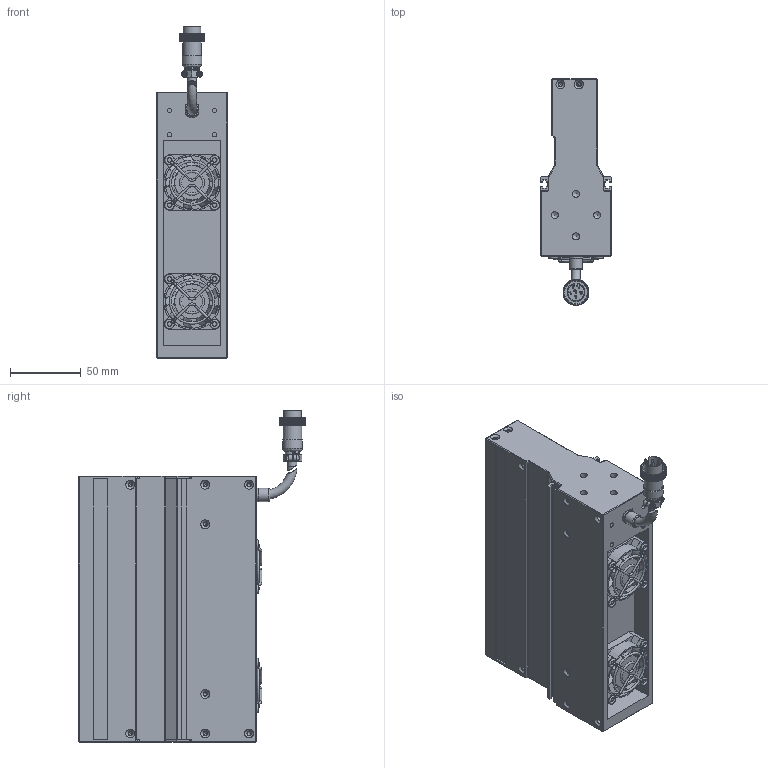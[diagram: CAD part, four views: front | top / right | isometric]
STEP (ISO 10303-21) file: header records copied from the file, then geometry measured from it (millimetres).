
FILE_DESCRIPTION (( 'STEP AP203' ), '1' );
FILE_NAME ('OPT-LSSC188-W-V3.1U尨砩芞.STEP', '2025-02-05T01:22:39', ( 'USER' ), ( '' ), 'SwSTEP 2.0', 'SolidWorks 2016', '' );
FILE_SCHEMA (( 'CONFIG_CONTROL_DESIGN' ));
Length unit declared in the file: millimetre
Products named in the file (2): OPT-LSSC188-W-V3.1U尨砩芞
Bounding box: 50 x 160.35 x 234.78 mm (x, y, z)
Volume: 738783 mm3; surface area: 165778.4 mm2
Topology: 14 solids, 22 shells, 3785 faces, 8406 edges, 4733 vertices
Faces by surface type: bspline 2113, cylinder 767, plane 760, torus 82, cone 63
Full cylindrical faces by diameter (mm): 0.95 x6, 1.6 x8, 2 x6, 2.5 x20, 3.2 x12, 3.4 x22, 3.5 x4, 5 x8, 6.2 x8, 6.4 x3, 7.5 x1, 8.6 x1, 9.3 x1, 9.8 x1, 10 x1, 13.2 x1, 14 x1, 16.1 x1, 24.8 x2, 38 x2
Entity records: 127296 total; most frequent: CARTESIAN_POINT 63658, ORIENTED_EDGE 16228, EDGE_CURVE 8114, DIRECTION 6505, B_SPLINE_CURVE_WITH_KNOTS 5590, VERTEX_POINT 4659, EDGE_LOOP 4103, FACE_OUTER_BOUND 3938
